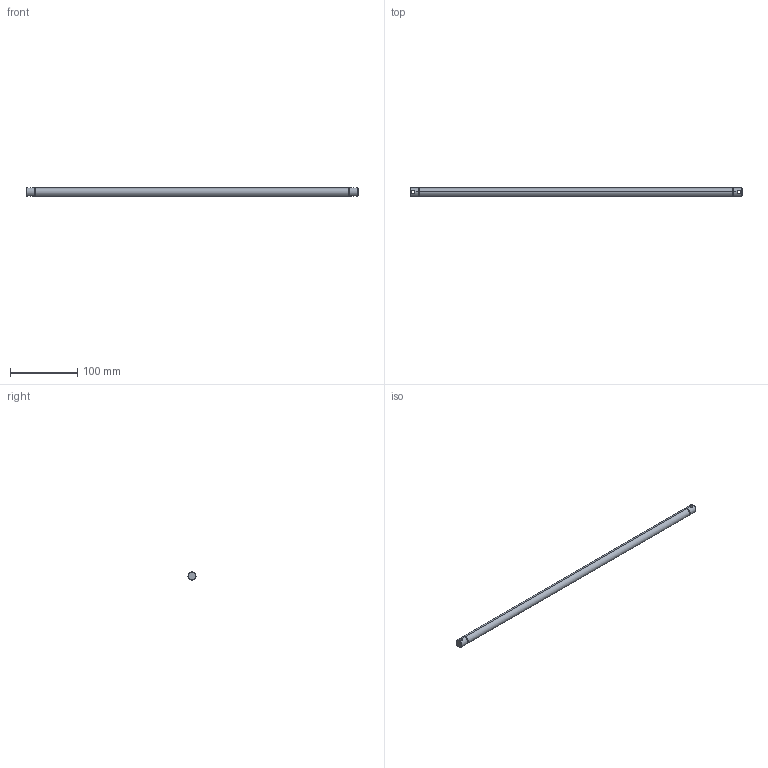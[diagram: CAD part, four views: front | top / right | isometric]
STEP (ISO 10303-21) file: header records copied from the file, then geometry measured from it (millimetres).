
FILE_DESCRIPTION (( 'STEP AP214' ), '1' );
FILE_NAME ('084.801.020.450.STEP', '2021-02-05T15:57:40', ( '' ), ( '' ), 'SwSTEP 2.0', 'SolidWorks 2018', '' );
FILE_SCHEMA (( 'AUTOMOTIVE_DESIGN' ));
Length unit declared in the file: millimetre
Products named in the file (1): 084.801.020.450
Bounding box: 494 x 12 x 12 mm (x, y, z)
Volume: 55379.8 mm3; surface area: 19140 mm2
Topology: 1 solids, 1 shells, 24 faces, 54 edges, 32 vertices
Faces by surface type: cylinder 14, plane 6, cone 4
Entity records: 976 total; most frequent: CARTESIAN_POINT 351, DIRECTION 120, ORIENTED_EDGE 108, EDGE_CURVE 54, AXIS2_PLACEMENT_3D 49, VERTEX_POINT 32, EDGE_LOOP 28, CIRCLE 24
